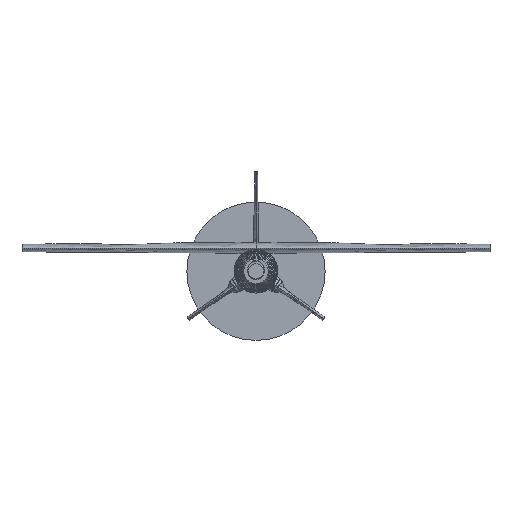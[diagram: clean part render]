
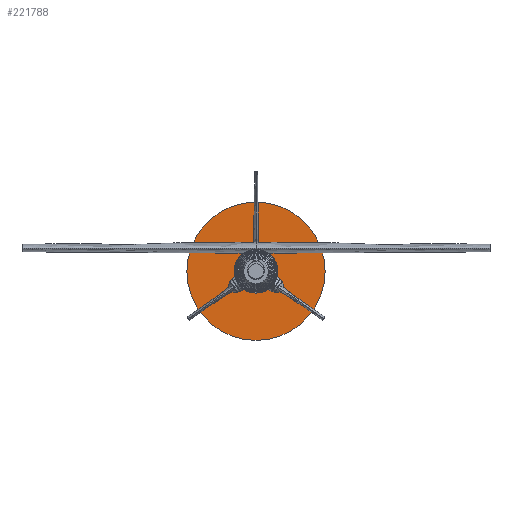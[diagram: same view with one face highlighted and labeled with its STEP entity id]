
A CAD part, left-side view. The second image highlights one B-rep face of the part: STEP entity #221788.
In plain terms, the highlighted planar face has unit normal (-1, 0, 0).
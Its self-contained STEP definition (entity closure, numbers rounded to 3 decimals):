
#221710 = CYLINDRICAL_SURFACE('',#221711,63.5);
#221711 = AXIS2_PLACEMENT_3D('',#221712,#221713,#221714);
#221712 = CARTESIAN_POINT('',(467.55,0.,0.));
#221713 = DIRECTION('',(1.,0.,0.));
#221714 = DIRECTION('',(-0.,0.,1.));
#221735 = VERTEX_POINT('',#221736);
#221736 = CARTESIAN_POINT('',(467.55,0.,63.5));
#221757 = EDGE_CURVE('',#221735,#221735,#221758,.T.);
#221758 = SURFACE_CURVE('',#221759,(#221764,#221771),.PCURVE_S1.);
#221759 = CIRCLE('',#221760,63.5);
#221760 = AXIS2_PLACEMENT_3D('',#221761,#221762,#221763);
#221761 = CARTESIAN_POINT('',(467.55,0.,0.));
#221762 = DIRECTION('',(1.,0.,0.));
#221763 = DIRECTION('',(-0.,0.,1.));
#221764 = PCURVE('',#221710,#221765);
#221765 = DEFINITIONAL_REPRESENTATION('',(#221766),#221770);
#221766 = LINE('',#221767,#221768);
#221767 = CARTESIAN_POINT('',(0.,0.));
#221768 = VECTOR('',#221769,1.);
#221769 = DIRECTION('',(1.,0.));
#221770 = ( GEOMETRIC_REPRESENTATION_CONTEXT(2) 
PARAMETRIC_REPRESENTATION_CONTEXT() REPRESENTATION_CONTEXT('2D SPACE',''
  ) );
#221771 = PCURVE('',#221772,#221777);
#221772 = PLANE('',#221773);
#221773 = AXIS2_PLACEMENT_3D('',#221774,#221775,#221776);
#221774 = CARTESIAN_POINT('',(467.55,0.,0.));
#221775 = DIRECTION('',(1.,0.,0.));
#221776 = DIRECTION('',(-0.,0.,1.));
#221777 = DEFINITIONAL_REPRESENTATION('',(#221778),#221782);
#221778 = CIRCLE('',#221779,63.5);
#221779 = AXIS2_PLACEMENT_2D('',#221780,#221781);
#221780 = CARTESIAN_POINT('',(0.,0.));
#221781 = DIRECTION('',(1.,0.));
#221782 = ( GEOMETRIC_REPRESENTATION_CONTEXT(2) 
PARAMETRIC_REPRESENTATION_CONTEXT() REPRESENTATION_CONTEXT('2D SPACE',''
  ) );
#221788 = ADVANCED_FACE('',(#221789),#221772,.F.);
#221789 = FACE_BOUND('',#221790,.T.);
#221790 = EDGE_LOOP('',(#221791));
#221791 = ORIENTED_EDGE('',*,*,#221757,.F.);
